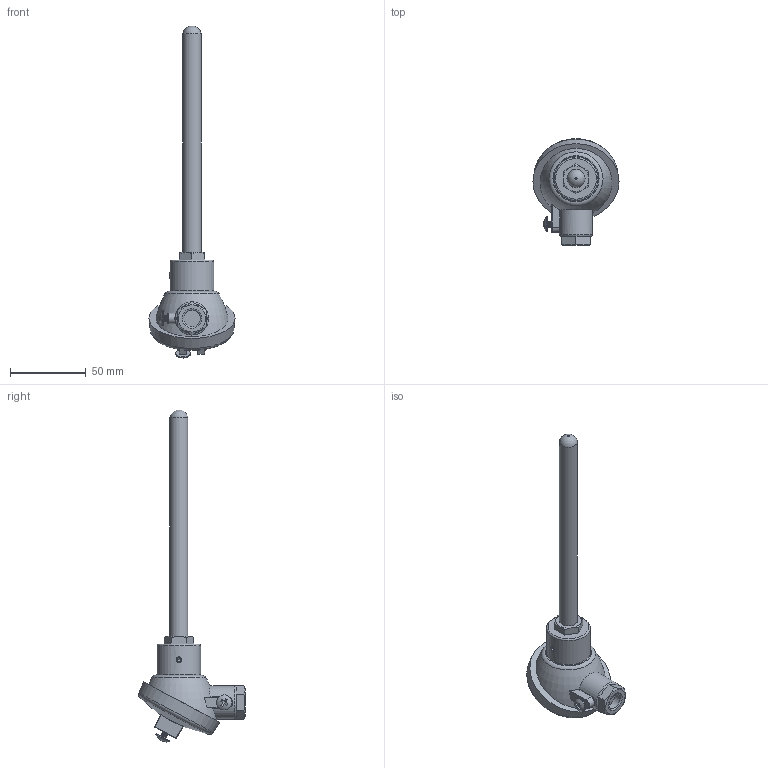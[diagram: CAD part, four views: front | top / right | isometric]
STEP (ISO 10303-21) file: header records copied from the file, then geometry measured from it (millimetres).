
FILE_DESCRIPTION (( 'STEP AP203' ), '1' );
FILE_NAME ('YIR30_9(0).STEP', '2024-12-12T06:37:48', ( '' ), ( '' ), 'SwSTEP 2.0', 'SolidWorks 2021', '' );
FILE_SCHEMA (( 'CONFIG_CONTROL_DESIGN' ));
Length unit declared in the file: millimetre
Products named in the file (1): YIR30_9(0)
Bounding box: 57 x 70.64 x 219.89 mm (x, y, z)
Volume: 93887.3 mm3; surface area: 20081.9 mm2
Topology: 1 solids, 2 shells, 186 faces, 445 edges, 275 vertices
Faces by surface type: plane 88, cylinder 47, bspline 19, torus 12, cone 12, sphere 8
Full cylindrical faces by diameter (mm): 3.5 x3, 3.6 x1, 3.8 x10, 10 x2, 11 x1, 12 x1, 16 x1, 16.5 x1, 22 x1, 29 x1
Entity records: 7863 total; most frequent: CARTESIAN_POINT 4280, ORIENTED_EDGE 714, DIRECTION 677, EDGE_CURVE 357, AXIS2_PLACEMENT_3D 263, VERTEX_POINT 230, EDGE_LOOP 217, FACE_OUTER_BOUND 195
